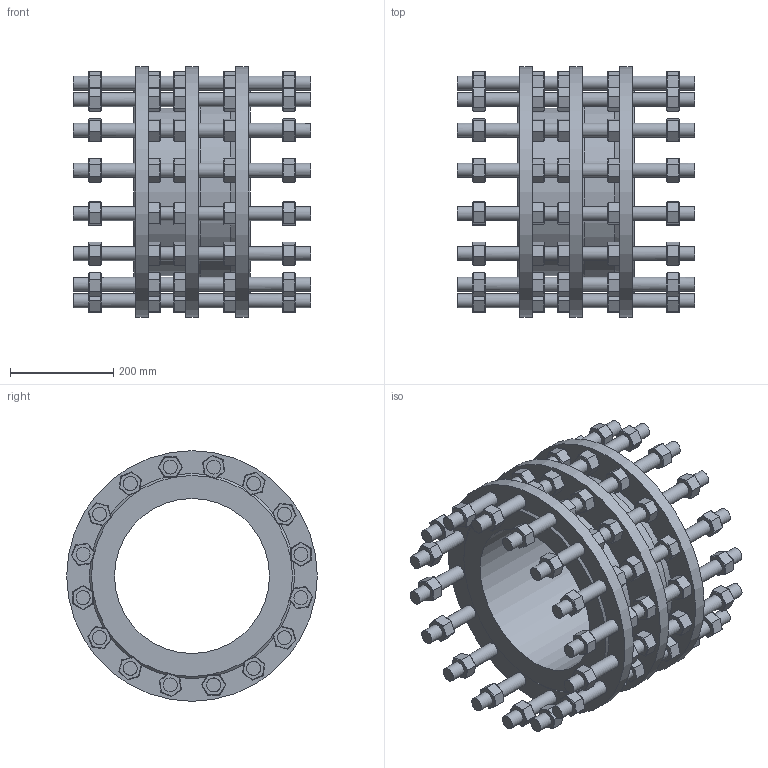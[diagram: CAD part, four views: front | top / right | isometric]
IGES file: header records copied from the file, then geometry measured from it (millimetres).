
Start section: SolidWorks IGES file using analytic representation for surfaces
Global section: file name: X:\AR\CV\873\873-0300-00-741000\873030000741000.IGS; native system: SolidWorks 2020; preprocessor: SolidWorks 2020; author: m.lucatello; date: 211105.102814; units: millimetre
Bounding box: 460 x 485 x 485 mm (x, y, z)
Surface area: 2116736.1 mm2 (no closed solid volume)
Topology: 0 solids, 0 shells, 1955 faces, 8030 edges, 7716 vertices
Faces by surface type: bspline 1641, revolution 314
